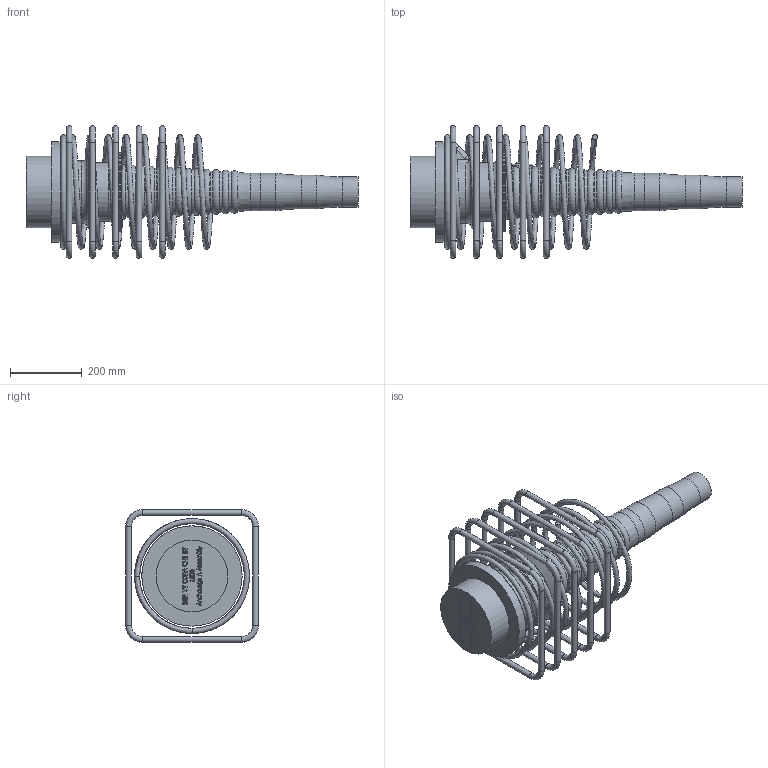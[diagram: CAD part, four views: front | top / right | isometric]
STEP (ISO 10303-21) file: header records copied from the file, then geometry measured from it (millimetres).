
FILE_DESCRIPTION(/* description */ (''),/* implementation_level */ '2;1');
FILE_NAME(/* name */ 'BBR VT CONA CMI BT 1606_Anchorage A Assembly_CS-34,28.stp',/* time_stamp */ '2025-05-14T11:31:01+02:00',/* author */ ('tk'),/* organization */ (''),/* preprocessor_version */ 'ST-DEVELOPER v20',/* originating_system */ 'Autodesk Inventor 2024',/* authorisation */ '');
FILE_SCHEMA (('AUTOMOTIVE_DESIGN { 1 0 10303 214 3 1 1 }'));
Length unit declared in the file: millimetre
Products named in the file (1): BBR VT CONA CMI BT 1606_Anchorage A Assembly_CS-34,28
Bounding box: 926.1 x 370 x 370 mm (x, y, z)
Volume: 17743609.2 mm3; surface area: 1291737.2 mm2
Topology: 7 solids, 8 shells, 781 faces, 2091 edges, 1373 vertices
Faces by surface type: plane 323, bspline 317, torus 77, cylinder 35, cone 19, sphere 10
Full cylindrical faces by diameter (mm): 16 x20, 34 x1, 57 x1, 84 x1, 94 x1, 104 x1, 164 x1, 200 x1, 218 x1, 223.017 x1, 280 x1
Entity records: 31495 total; most frequent: CARTESIAN_POINT 13040, ORIENTED_EDGE 4178, DIRECTION 2702, EDGE_CURVE 2089, VERTEX_POINT 1373, LINE 1104, VECTOR 1104, EDGE_LOOP 842
